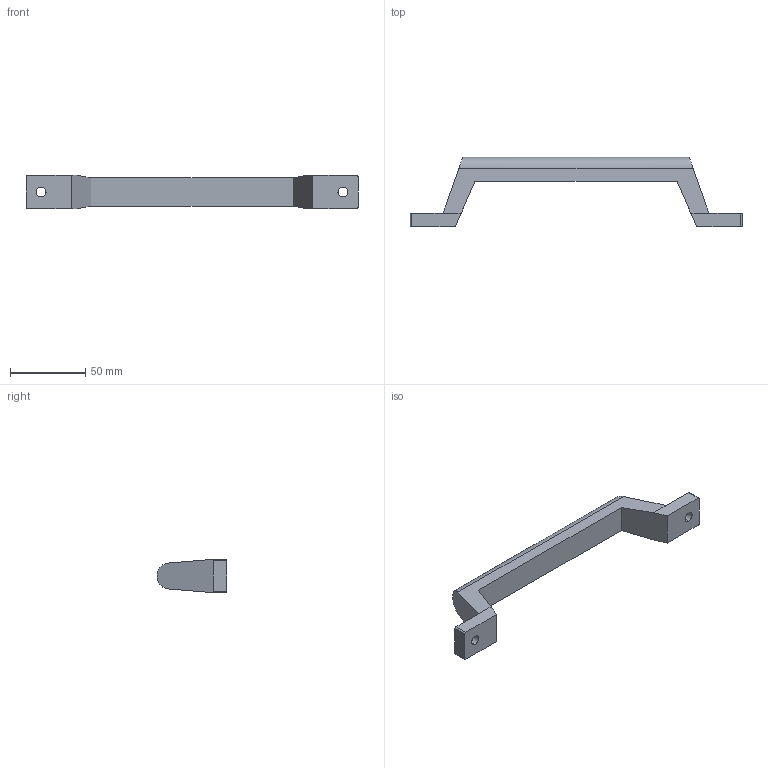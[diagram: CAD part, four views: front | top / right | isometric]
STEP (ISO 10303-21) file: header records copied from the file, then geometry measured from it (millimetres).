
FILE_DESCRIPTION (( 'STEP AP203' ), '1' );
FILE_NAME ('E10-20801.STEP', '2024-10-29T06:07:17', ( '' ), ( '' ), 'SwSTEP 2.0', 'SolidWorks 2021', '' );
FILE_SCHEMA (( 'CONFIG_CONTROL_DESIGN' ));
Length unit declared in the file: millimetre
Products named in the file (1): E10-20801
Bounding box: 220 x 46 x 22 mm (x, y, z)
Volume: 62239.3 mm3; surface area: 16922.3 mm2
Topology: 1 solids, 1 shells, 32 faces, 82 edges, 52 vertices
Faces by surface type: plane 18, cylinder 10, cone 4
Entity records: 1047 total; most frequent: CARTESIAN_POINT 179, DIRECTION 164, ORIENTED_EDGE 164, EDGE_CURVE 82, VECTOR 58, LINE 58, AXIS2_PLACEMENT_3D 53, VERTEX_POINT 52
